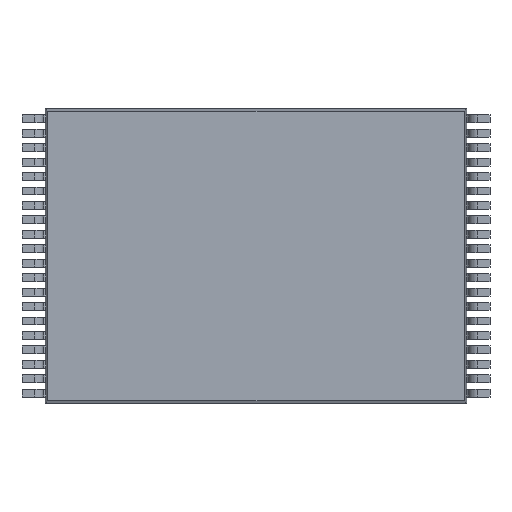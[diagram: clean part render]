
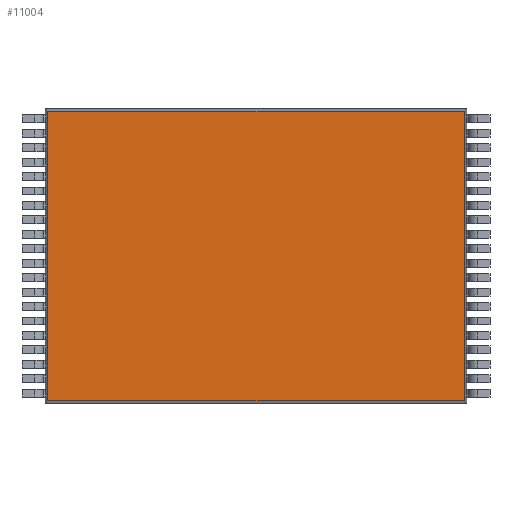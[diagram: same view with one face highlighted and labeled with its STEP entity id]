
A CAD part, front view. The second image highlights one B-rep face of the part: STEP entity #11004.
In plain terms, the highlighted planar face has unit normal (0, -1, 0).
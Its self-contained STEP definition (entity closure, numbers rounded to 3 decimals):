
#1922 = AXIS2_PLACEMENT_3D ( 'NONE', #18154, #18161, #18163 ) ;
#2148 = FACE_OUTER_BOUND ( 'NONE', #13061, .T. ) ;
#4377 = EDGE_CURVE ( 'NONE', #12853, #12843, #12531, .T. ) ;
#4378 = EDGE_CURVE ( 'NONE', #12839, #12864, #12548, .T. ) ;
#5079 = EDGE_CURVE ( 'NONE', #12864, #12853, #10648, .T. ) ;
#5134 = EDGE_CURVE ( 'NONE', #12843, #12839, #10436, .T. ) ;
#7698 = DIRECTION ( 'NONE',  ( 0., 0., 1. ) ) ;
#7699 = CARTESIAN_POINT ( 'NONE',  ( 7.216, 0.1, 5.1 ) ) ;
#7731 = DIRECTION ( 'NONE',  ( 0., 0., -1. ) ) ;
#7761 = CARTESIAN_POINT ( 'NONE',  ( -7.216, 0.1, 5.1 ) ) ;
#10436 = LINE ( 'NONE', #7761, #10657 ) ;
#10644 = VECTOR ( 'NONE', #7698, 1000. ) ;
#10648 = LINE ( 'NONE', #7699, #10644 ) ;
#10657 = VECTOR ( 'NONE', #7731, 1000. ) ;
#11004 = ADVANCED_FACE ( 'NONE', ( #2148 ), #18152, .F. ) ;
#12515 = VECTOR ( 'NONE', #15962, 1000. ) ;
#12517 = VECTOR ( 'NONE', #15964, 1000. ) ;
#12531 = LINE ( 'NONE', #15965, #12517 ) ;
#12548 = LINE ( 'NONE', #15981, #12515 ) ;
#12839 = VERTEX_POINT ( 'NONE', #13923 ) ;
#12843 = VERTEX_POINT ( 'NONE', #13927 ) ;
#12853 = VERTEX_POINT ( 'NONE', #13937 ) ;
#12864 = VERTEX_POINT ( 'NONE', #13948 ) ;
#13061 = EDGE_LOOP ( 'NONE', ( #20664, #20661, #20659, #20657 ) ) ;
#13923 = CARTESIAN_POINT ( 'NONE',  ( -7.216, 0.1, -5.016 ) ) ;
#13927 = CARTESIAN_POINT ( 'NONE',  ( -7.216, 0.1, 5.016 ) ) ;
#13937 = CARTESIAN_POINT ( 'NONE',  ( 7.216, 0.1, 5.016 ) ) ;
#13948 = CARTESIAN_POINT ( 'NONE',  ( 7.216, 0.1, -5.016 ) ) ;
#15962 = DIRECTION ( 'NONE',  ( 1., 0., 0. ) ) ;
#15964 = DIRECTION ( 'NONE',  ( -1., 0., 0. ) ) ;
#15965 = CARTESIAN_POINT ( 'NONE',  ( 7.3, 0.1, 5.016 ) ) ;
#15981 = CARTESIAN_POINT ( 'NONE',  ( 7.3, 0.1, -5.016 ) ) ;
#18152 = PLANE ( 'NONE',  #1922 ) ;
#18154 = CARTESIAN_POINT ( 'NONE',  ( 0., 0.1, 0. ) ) ;
#18161 = DIRECTION ( 'NONE',  ( 0., 1., 0. ) ) ;
#18163 = DIRECTION ( 'NONE',  ( 0., 0., 1. ) ) ;
#20657 = ORIENTED_EDGE ( 'NONE', *, *, #4377, .T. ) ;
#20659 = ORIENTED_EDGE ( 'NONE', *, *, #5079, .T. ) ;
#20661 = ORIENTED_EDGE ( 'NONE', *, *, #4378, .T. ) ;
#20664 = ORIENTED_EDGE ( 'NONE', *, *, #5134, .T. ) ;
